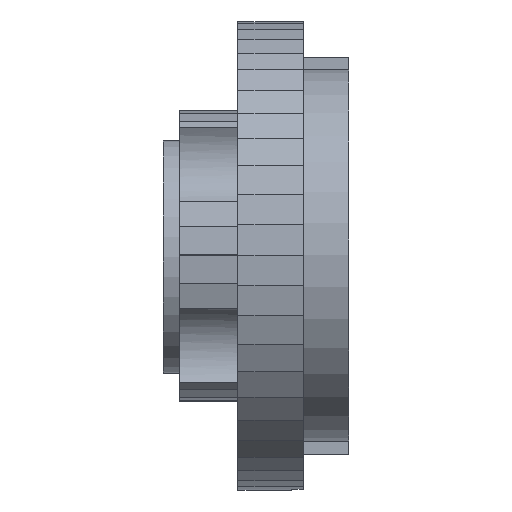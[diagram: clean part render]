
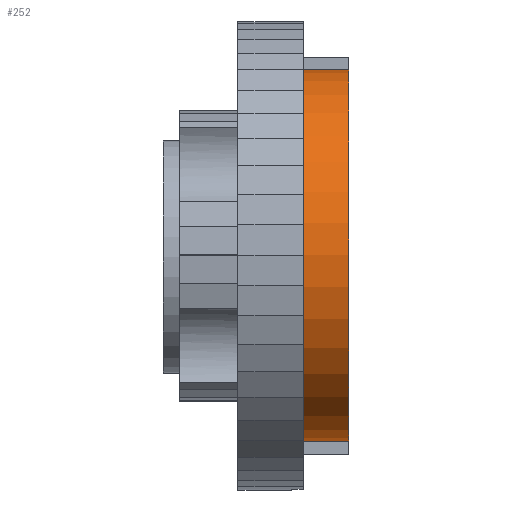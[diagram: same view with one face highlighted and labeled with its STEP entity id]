
A CAD part, top view. The second image highlights one B-rep face of the part: STEP entity #252.
In plain terms, the highlighted cylindrical face has radius 7.95 mm (diameter 15.9 mm), a full revolution.
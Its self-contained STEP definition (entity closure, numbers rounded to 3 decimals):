
#239 = EDGE_CURVE('',#240,#240,#242,.T.);
#240 = VERTEX_POINT('',#241);
#241 = CARTESIAN_POINT('',(38.5,22.,43.727));
#242 = CIRCLE('',#243,7.95);
#243 = AXIS2_PLACEMENT_3D('',#244,#245,#246);
#244 = CARTESIAN_POINT('',(38.5,22.,35.777));
#245 = DIRECTION('',(1.,0.,0.));
#246 = DIRECTION('',(-0.,0.,1.));
#252 = ADVANCED_FACE('',(#253),#272,.T.);
#253 = FACE_BOUND('',#254,.T.);
#254 = EDGE_LOOP('',(#255,#263,#270,#271));
#255 = ORIENTED_EDGE('',*,*,#256,.T.);
#256 = EDGE_CURVE('',#240,#257,#259,.T.);
#257 = VERTEX_POINT('',#258);
#258 = CARTESIAN_POINT('',(40.45,22.,43.727));
#259 = LINE('',#260,#261);
#260 = CARTESIAN_POINT('',(38.49,22.,43.727));
#261 = VECTOR('',#262,1.);
#262 = DIRECTION('',(1.,0.,0.));
#263 = ORIENTED_EDGE('',*,*,#264,.F.);
#264 = EDGE_CURVE('',#257,#257,#265,.T.);
#265 = CIRCLE('',#266,7.95);
#266 = AXIS2_PLACEMENT_3D('',#267,#268,#269);
#267 = CARTESIAN_POINT('',(40.45,22.,35.777));
#268 = DIRECTION('',(1.,0.,0.));
#269 = DIRECTION('',(-0.,0.,1.));
#270 = ORIENTED_EDGE('',*,*,#256,.F.);
#271 = ORIENTED_EDGE('',*,*,#239,.T.);
#272 = CYLINDRICAL_SURFACE('',#273,7.95);
#273 = AXIS2_PLACEMENT_3D('',#274,#275,#276);
#274 = CARTESIAN_POINT('',(38.49,22.,35.777));
#275 = DIRECTION('',(1.,0.,0.));
#276 = DIRECTION('',(-0.,0.,1.));
